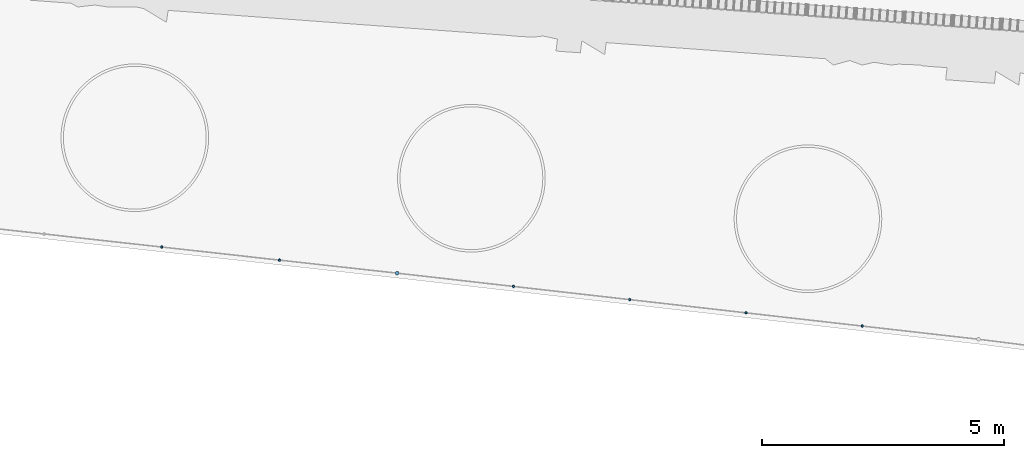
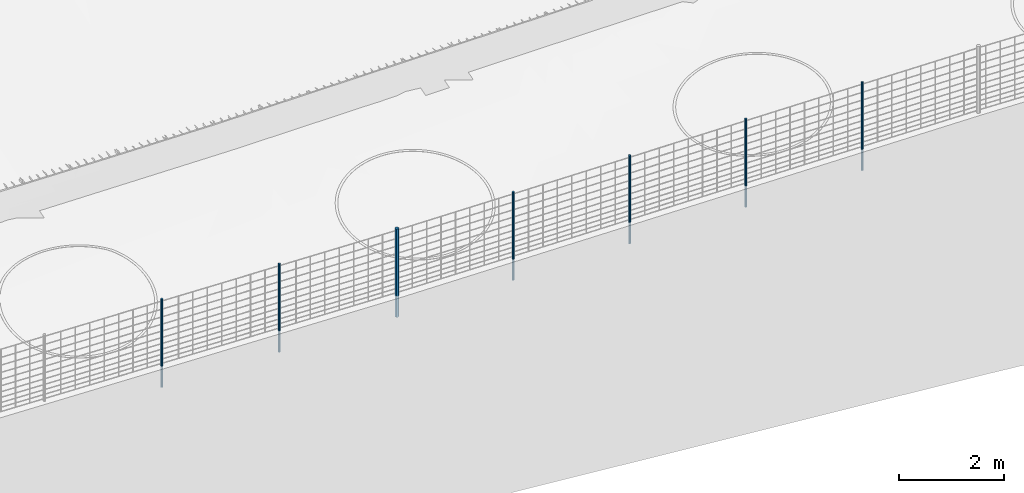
# Not in any storey, part 10 of 72: 7 members.
"""IFC4 model written with IfcOpenShell, lengths in metres."""

from ifc_helpers import new_model, si_unit, direction, frame, origin_with_axes, place, context, subcontext, project, spatial, circle, extrude, material, material_profile, profile_set, profile_usage, type_object, element, save


model = new_model("IFC4")

# Units and contexts
model_context = context("Model", 3, precision=1e-05, world=origin_with_axes(), true_north=direction((0.0, 1.0)))
body_context = subcontext(model_context, "Body", "Model", "MODEL_VIEW")
ifc_project = project(units=[si_unit("AREAUNIT", "SQUARE_METRE"), si_unit("VOLUMEUNIT", "CUBIC_METRE"), si_unit("LENGTHUNIT", "METRE")], contexts=[model_context])

# Site
site_placement = place(None, origin_with_axes())
site = spatial("IfcSite", under=ifc_project, at=site_placement, Name="Lares · Rua das Mercês · artigo 4771")

# Members
ifc_material = material(Name="Aço galvanizado / Stahl verzinkt", Category="steel")
ifc_material_profile_1 = material_profile(ifc_material, circle(Radius=0.038))
ifc_profile_set_1 = profile_set([ifc_material_profile_1], Name="D0.076")
ifc_profile_usage_1 = profile_usage(ifc_profile_set_1)
member_type_1 = type_object("IfcMemberType", Name="D0.076 / galvanized", PredefinedType="NOTDEFINED", material=ifc_profile_set_1)
member_1_placement = place(site_placement, frame((59.2838665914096, -3.65852533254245, 13.6966499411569), z_axis=(0.0, 0.0, 1.0), x_axis=(1.0, -1.03767253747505e-17, 0.0)))
element("IfcMember", 1, at=member_1_placement, inside=site, type_object=member_type_1, material=ifc_profile_usage_1, Name="Vedação · poste de canto/topo", PredefinedType="POST", context=body_context, shape_type="SweptSolid", body=[
    extrude(circle(Radius=0.038), origin_with_axes(), (0.0, 0.0, 1.0), 2.05),
])
ifc_material_profile_2 = material_profile(ifc_material, circle(Radius=0.024))
ifc_profile_set_2 = profile_set([ifc_material_profile_2], Name="D0.048")
ifc_profile_usage_2 = profile_usage(ifc_profile_set_2)
member_type_2 = type_object("IfcMemberType", Name="D0.048 / galvanized", PredefinedType="NOTDEFINED", material=ifc_profile_set_2)
member_2_placement = place(site_placement, frame((68.8928446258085, -4.7510710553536, 14.3948942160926), z_axis=(0.0, 0.0, 1.0), x_axis=(1.0, -1.03767253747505e-17, 0.0)))
element("IfcMember", 2, at=member_2_placement, inside=site, type_object=member_type_2, material=ifc_profile_usage_2, Name="Vedação · poste intermédio", PredefinedType="POST", context=body_context, shape_type="SweptSolid", body=[
    extrude(circle(Radius=0.024), origin_with_axes(), (0.0, 0.0, 1.0), 2.05),
])
ifc_profile_usage_3 = profile_usage(ifc_profile_set_2)
member_3_placement = place(site_placement, frame((66.4906001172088, -4.47793462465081, 14.2194036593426), z_axis=(0.0, 0.0, 1.0), x_axis=(1.0, -1.03767253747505e-17, 0.0)))
element("IfcMember", 3, at=member_3_placement, inside=site, type_object=member_type_2, material=ifc_profile_usage_3, Name="Vedação · poste intermédio", PredefinedType="POST", context=body_context, shape_type="SweptSolid", body=[
    extrude(circle(Radius=0.024), origin_with_axes(), (0.0, 0.0, 1.0), 2.05),
])
ifc_profile_usage_4 = profile_usage(ifc_profile_set_2)
member_4_placement = place(site_placement, frame((64.0883556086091, -4.20479819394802, 14.0439131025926), z_axis=(0.0, 0.0, 1.0), x_axis=(1.0, -1.03767253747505e-17, 0.0)))
element("IfcMember", 4, at=member_4_placement, inside=site, type_object=member_type_2, material=ifc_profile_usage_4, Name="Vedação · poste intermédio", PredefinedType="POST", context=body_context, shape_type="SweptSolid", body=[
    extrude(circle(Radius=0.024), origin_with_axes(), (0.0, 0.0, 1.0), 2.05),
])
ifc_profile_usage_5 = profile_usage(ifc_profile_set_2)
member_5_placement = place(site_placement, frame((61.6861111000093, -3.93166176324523, 13.8684225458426), z_axis=(0.0, 0.0, 1.0), x_axis=(1.0, -1.03767253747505e-17, 0.0)))
element("IfcMember", 5, at=member_5_placement, inside=site, type_object=member_type_2, material=ifc_profile_usage_5, Name="Vedação · poste intermédio", PredefinedType="POST", context=body_context, shape_type="SweptSolid", body=[
    extrude(circle(Radius=0.024), origin_with_axes(), (0.0, 0.0, 1.0), 2.05),
])
ifc_profile_usage_6 = profile_usage(ifc_profile_set_2)
member_6_placement = place(site_placement, frame((56.8529065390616, -3.38859866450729, 13.5593326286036), z_axis=(0.0, 0.0, 1.0), x_axis=(1.0, -1.03767253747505e-17, 0.0)))
element("IfcMember", 6, at=member_6_placement, inside=site, type_object=member_type_2, material=ifc_profile_usage_6, Name="Vedação · poste intermédio", PredefinedType="POST", context=body_context, shape_type="SweptSolid", body=[
    extrude(circle(Radius=0.024), origin_with_axes(), (0.0, 0.0, 1.0), 2.05),
])
ifc_profile_usage_7 = profile_usage(ifc_profile_set_2)
member_7_placement = place(site_placement, frame((54.4219464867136, -3.11867199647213, 13.4251693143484), z_axis=(0.0, 0.0, 1.0), x_axis=(1.0, -1.03767253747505e-17, 0.0)))
element("IfcMember", 7, at=member_7_placement, inside=site, type_object=member_type_2, material=ifc_profile_usage_7, Name="Vedação · poste intermédio", PredefinedType="POST", context=body_context, shape_type="SweptSolid", body=[
    extrude(circle(Radius=0.024), origin_with_axes(), (0.0, 0.0, 1.0), 2.05),
])

save(model, "model.ifc")
